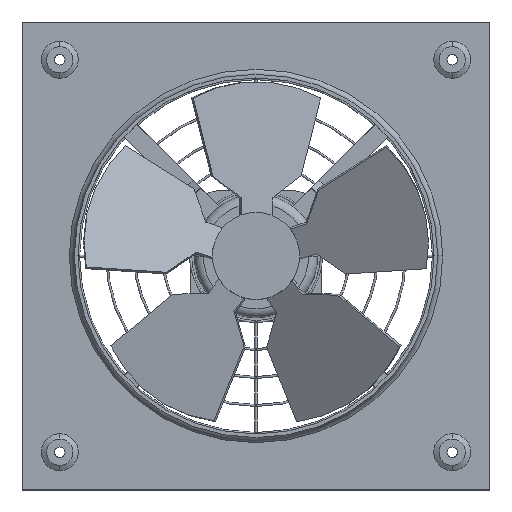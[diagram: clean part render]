
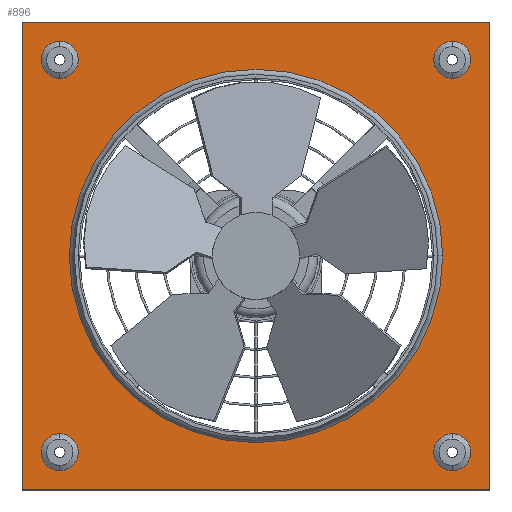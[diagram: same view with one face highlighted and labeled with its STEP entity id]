
A CAD part, top view. The second image highlights one B-rep face of the part: STEP entity #896.
In plain terms, the highlighted planar face has unit normal (0, 0, 1).
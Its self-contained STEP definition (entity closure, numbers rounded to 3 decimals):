
#896=ADVANCED_FACE('',(#1829,#1830,#1831,#1832,#1833,#1834),#1835,.T.);
#1829=FACE_BOUND('',#2766,.T.);
#1830=FACE_BOUND('',#2767,.T.);
#1831=FACE_BOUND('',#2768,.T.);
#1832=FACE_BOUND('',#2769,.T.);
#1833=FACE_OUTER_BOUND('',#2770,.T.);
#1834=FACE_BOUND('',#2771,.T.);
#1835=PLANE('',#2772);
#2766=EDGE_LOOP('',(#5582,#5583));
#2767=EDGE_LOOP('',(#5584,#5585));
#2768=EDGE_LOOP('',(#5586,#5587));
#2769=EDGE_LOOP('',(#5588,#5589));
#2770=EDGE_LOOP('',(#5590,#5591,#5592,#5593));
#2771=EDGE_LOOP('',(#5594,#5595,#5596));
#2772=AXIS2_PLACEMENT_3D('',#5597,#5598,#5599);
#5582=ORIENTED_EDGE('',*,*,#6746,.T.);
#5583=ORIENTED_EDGE('',*,*,#5924,.T.);
#5584=ORIENTED_EDGE('',*,*,#6750,.T.);
#5585=ORIENTED_EDGE('',*,*,#5919,.T.);
#5586=ORIENTED_EDGE('',*,*,#6754,.T.);
#5587=ORIENTED_EDGE('',*,*,#5914,.T.);
#5588=ORIENTED_EDGE('',*,*,#6758,.T.);
#5589=ORIENTED_EDGE('',*,*,#5909,.T.);
#5590=ORIENTED_EDGE('',*,*,#6775,.T.);
#5591=ORIENTED_EDGE('',*,*,#6776,.T.);
#5592=ORIENTED_EDGE('',*,*,#6777,.T.);
#5593=ORIENTED_EDGE('',*,*,#6778,.T.);
#5594=ORIENTED_EDGE('',*,*,#6779,.F.);
#5595=ORIENTED_EDGE('',*,*,#6780,.F.);
#5596=ORIENTED_EDGE('',*,*,#5880,.F.);
#5597=CARTESIAN_POINT('',(0.0,0.0,15.525));
#5598=DIRECTION('',(0.0,0.0,1.0));
#5599=DIRECTION('',(1.0,0.0,0.0));
#5880=EDGE_CURVE('',#7162,#7164,#7165,.T.);
#5909=EDGE_CURVE('',#7216,#7213,#7217,.T.);
#5914=EDGE_CURVE('',#7225,#7222,#7226,.T.);
#5919=EDGE_CURVE('',#7234,#7231,#7235,.T.);
#5924=EDGE_CURVE('',#7243,#7240,#7244,.T.);
#6746=EDGE_CURVE('',#7240,#7243,#8383,.T.);
#6750=EDGE_CURVE('',#7231,#7234,#8387,.T.);
#6754=EDGE_CURVE('',#7222,#7225,#8391,.T.);
#6758=EDGE_CURVE('',#7213,#7216,#8395,.T.);
#6775=EDGE_CURVE('',#8412,#8413,#8414,.T.);
#6776=EDGE_CURVE('',#8413,#8415,#8416,.T.);
#6777=EDGE_CURVE('',#8415,#8417,#8418,.T.);
#6778=EDGE_CURVE('',#8417,#8412,#8419,.T.);
#6779=EDGE_CURVE('',#8420,#7162,#8421,.T.);
#6780=EDGE_CURVE('',#7164,#8420,#8422,.T.);
#7162=VERTEX_POINT('',#11826);
#7164=VERTEX_POINT('',#11828);
#7165=CIRCLE('',#11829,185.5);
#7213=VERTEX_POINT('',#11887);
#7216=VERTEX_POINT('',#11891);
#7217=CIRCLE('',#11892,18.375);
#7222=VERTEX_POINT('',#11898);
#7225=VERTEX_POINT('',#11902);
#7226=CIRCLE('',#11903,18.375);
#7231=VERTEX_POINT('',#11909);
#7234=VERTEX_POINT('',#11913);
#7235=CIRCLE('',#11914,18.375);
#7240=VERTEX_POINT('',#11920);
#7243=VERTEX_POINT('',#11924);
#7244=CIRCLE('',#11925,18.375);
#8383=CIRCLE('',#16243,18.375);
#8387=CIRCLE('',#16247,18.375);
#8391=CIRCLE('',#16251,18.375);
#8395=CIRCLE('',#16255,18.375);
#8412=VERTEX_POINT('',#16272);
#8413=VERTEX_POINT('',#16273);
#8414=LINE('',#16274,#16275);
#8415=VERTEX_POINT('',#16276);
#8416=LINE('',#16277,#16278);
#8417=VERTEX_POINT('',#16279);
#8418=LINE('',#16280,#16281);
#8419=LINE('',#16282,#16283);
#8420=VERTEX_POINT('',#16284);
#8421=CIRCLE('',#16285,185.5);
#8422=CIRCLE('',#16286,185.5);
#11826=CARTESIAN_POINT('',(-185.5,0.,15.525));
#11828=CARTESIAN_POINT('',(185.5,0.,15.525));
#11829=AXIS2_PLACEMENT_3D('',#16509,#16510,#16511);
#11887=CARTESIAN_POINT('',(-195.0,-176.625,15.525));
#11891=CARTESIAN_POINT('',(-195.0,-213.375,15.525));
#11892=AXIS2_PLACEMENT_3D('',#16556,#16557,#16558);
#11898=CARTESIAN_POINT('',(-195.0,213.375,15.525));
#11902=CARTESIAN_POINT('',(-195.0,176.625,15.525));
#11903=AXIS2_PLACEMENT_3D('',#16564,#16565,#16566);
#11909=CARTESIAN_POINT('',(195.0,-176.625,15.525));
#11913=CARTESIAN_POINT('',(195.0,-213.375,15.525));
#11914=AXIS2_PLACEMENT_3D('',#16572,#16573,#16574);
#11920=CARTESIAN_POINT('',(195.0,213.375,15.525));
#11924=CARTESIAN_POINT('',(195.0,176.625,15.525));
#11925=AXIS2_PLACEMENT_3D('',#16580,#16581,#16582);
#16243=AXIS2_PLACEMENT_3D('',#17379,#17380,#17381);
#16247=AXIS2_PLACEMENT_3D('',#17385,#17386,#17387);
#16251=AXIS2_PLACEMENT_3D('',#17391,#17392,#17393);
#16255=AXIS2_PLACEMENT_3D('',#17397,#17398,#17399);
#16272=CARTESIAN_POINT('',(232.5,-232.5,15.525));
#16273=CARTESIAN_POINT('',(232.5,232.5,15.525));
#16274=CARTESIAN_POINT('',(232.5,0.0,15.525));
#16275=VECTOR('',#17415,1.0);
#16276=CARTESIAN_POINT('',(-232.5,232.5,15.525));
#16277=CARTESIAN_POINT('',(0.0,232.5,15.525));
#16278=VECTOR('',#17416,1.0);
#16279=CARTESIAN_POINT('',(-232.5,-232.5,15.525));
#16280=CARTESIAN_POINT('',(-232.5,0.0,15.525));
#16281=VECTOR('',#17417,1.0);
#16282=CARTESIAN_POINT('',(0.0,-232.5,15.525));
#16283=VECTOR('',#17418,1.0);
#16284=CARTESIAN_POINT('',(0.,185.5,15.525));
#16285=AXIS2_PLACEMENT_3D('',#17419,#17420,#17421);
#16286=AXIS2_PLACEMENT_3D('',#17422,#17423,#17424);
#16509=CARTESIAN_POINT('',(0.,0.0,15.525));
#16510=DIRECTION('',(0.,-0.0,1.0));
#16511=DIRECTION('',(0.0,1.0,0.0));
#16556=CARTESIAN_POINT('',(-195.0,-195.0,15.525));
#16557=DIRECTION('',(0.0,0.0,-1.0));
#16558=DIRECTION('',(0.0,1.0,0.0));
#16564=CARTESIAN_POINT('',(-195.0,195.0,15.525));
#16565=DIRECTION('',(0.0,0.0,-1.0));
#16566=DIRECTION('',(0.0,1.0,0.0));
#16572=CARTESIAN_POINT('',(195.0,-195.0,15.525));
#16573=DIRECTION('',(0.0,0.0,-1.0));
#16574=DIRECTION('',(0.0,1.0,0.0));
#16580=CARTESIAN_POINT('',(195.0,195.0,15.525));
#16581=DIRECTION('',(0.0,0.0,-1.0));
#16582=DIRECTION('',(0.0,1.0,0.0));
#17379=CARTESIAN_POINT('',(195.0,195.0,15.525));
#17380=DIRECTION('',(0.0,0.0,-1.0));
#17381=DIRECTION('',(0.0,1.0,0.0));
#17385=CARTESIAN_POINT('',(195.0,-195.0,15.525));
#17386=DIRECTION('',(0.0,0.0,-1.0));
#17387=DIRECTION('',(0.0,1.0,0.0));
#17391=CARTESIAN_POINT('',(-195.0,195.0,15.525));
#17392=DIRECTION('',(0.0,0.0,-1.0));
#17393=DIRECTION('',(0.0,1.0,0.0));
#17397=CARTESIAN_POINT('',(-195.0,-195.0,15.525));
#17398=DIRECTION('',(0.0,0.0,-1.0));
#17399=DIRECTION('',(0.0,1.0,0.0));
#17415=DIRECTION('',(0.0,1.0,0.0));
#17416=DIRECTION('',(-1.0,0.0,0.0));
#17417=DIRECTION('',(0.0,-1.0,0.0));
#17418=DIRECTION('',(1.0,0.0,0.0));
#17419=CARTESIAN_POINT('',(0.,0.0,15.525));
#17420=DIRECTION('',(0.,-0.0,1.0));
#17421=DIRECTION('',(0.0,1.0,0.0));
#17422=CARTESIAN_POINT('',(0.,0.0,15.525));
#17423=DIRECTION('',(0.,-0.0,1.0));
#17424=DIRECTION('',(0.0,1.0,0.0));
